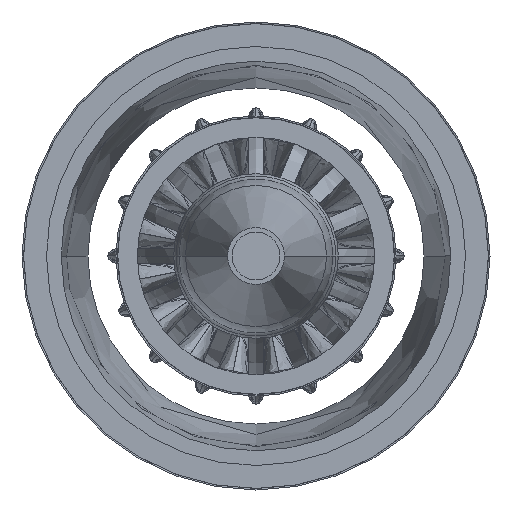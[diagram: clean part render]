
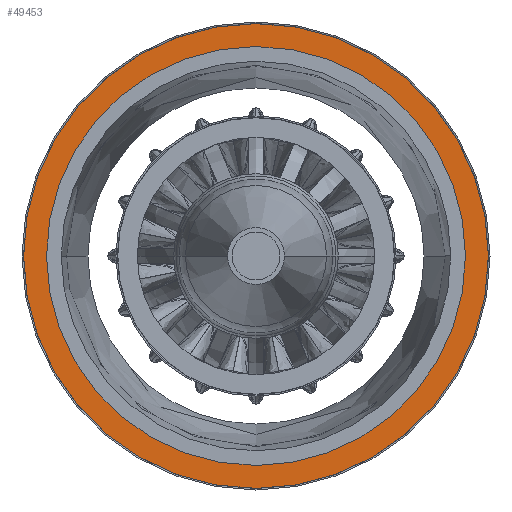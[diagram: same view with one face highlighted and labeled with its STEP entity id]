
A CAD part, left-side view. The second image highlights one B-rep face of the part: STEP entity #49453.
In plain terms, the highlighted planar face has unit normal (-1, 0, 0).
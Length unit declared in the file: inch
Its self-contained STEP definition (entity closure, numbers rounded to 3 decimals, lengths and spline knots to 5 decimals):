
#3422 = CARTESIAN_POINT ( 'NONE',  ( -32.04609, -0.00369, -5.53289 ) ) ;
#3760 = CIRCLE ( 'NONE', #67670, 6.13918 ) ;
#8200 = EDGE_LOOP ( 'NONE', ( #59161, #83132 ) ) ;
#10247 = DIRECTION ( 'NONE',  ( 1., 0., 0. ) ) ;
#10747 = DIRECTION ( 'NONE',  ( 0., -0.001, -1. ) ) ;
#11211 = EDGE_CURVE ( 'NONE', #22114, #51625, #86319, .T. ) ;
#12161 = AXIS2_PLACEMENT_3D ( 'NONE', #49746, #73228, #27210 ) ;
#12239 = DIRECTION ( 'NONE',  ( 0., -0.001, -1. ) ) ;
#13367 = AXIS2_PLACEMENT_3D ( 'NONE', #31087, #61624, #24563 ) ;
#16244 = CARTESIAN_POINT ( 'NONE',  ( -32.04609, 0.00369, 5.53289 ) ) ;
#22114 = VERTEX_POINT ( 'NONE', #3422 ) ;
#24563 = DIRECTION ( 'NONE',  ( 0., -0.001, -1. ) ) ;
#26411 = AXIS2_PLACEMENT_3D ( 'NONE', #61578, #70068, #92110 ) ;
#27210 = DIRECTION ( 'NONE',  ( 0., -0.001, -1. ) ) ;
#27612 = VERTEX_POINT ( 'NONE', #35341 ) ;
#30681 = VERTEX_POINT ( 'NONE', #50813 ) ;
#31087 = CARTESIAN_POINT ( 'NONE',  ( -32.04609, 0., 0. ) ) ;
#31752 = CARTESIAN_POINT ( 'NONE',  ( -32.04609, 0., 0. ) ) ;
#35341 = CARTESIAN_POINT ( 'NONE',  ( -32.04609, -0.0041, -6.13918 ) ) ;
#35657 = ORIENTED_EDGE ( 'NONE', *, *, #40976, .T. ) ;
#35735 = DIRECTION ( 'NONE',  ( 1., 0., 0. ) ) ;
#40976 = EDGE_CURVE ( 'NONE', #51625, #22114, #45717, .T. ) ;
#45717 = CIRCLE ( 'NONE', #12161, 5.5329 ) ;
#47961 = AXIS2_PLACEMENT_3D ( 'NONE', #65775, #35735, #12239 ) ;
#49453 = ADVANCED_FACE ( 'NONE', ( #60109, #74606 ), #66137, .T. ) ;
#49746 = CARTESIAN_POINT ( 'NONE',  ( -32.04609, 0., 0. ) ) ;
#50813 = CARTESIAN_POINT ( 'NONE',  ( -32.04609, 0.0041, 6.13918 ) ) ;
#51625 = VERTEX_POINT ( 'NONE', #16244 ) ;
#56514 = CIRCLE ( 'NONE', #13367, 6.13918 ) ;
#58139 = EDGE_LOOP ( 'NONE', ( #61474, #35657 ) ) ;
#58973 = EDGE_CURVE ( 'NONE', #27612, #30681, #3760, .T. ) ;
#59161 = ORIENTED_EDGE ( 'NONE', *, *, #58973, .F. ) ;
#60109 = FACE_BOUND ( 'NONE', #58139, .T. ) ;
#61474 = ORIENTED_EDGE ( 'NONE', *, *, #11211, .T. ) ;
#61578 = CARTESIAN_POINT ( 'NONE',  ( -32.04609, 5.53289, -0.00369 ) ) ;
#61624 = DIRECTION ( 'NONE',  ( 1., 0., 0. ) ) ;
#65775 = CARTESIAN_POINT ( 'NONE',  ( -32.04609, 0., 0. ) ) ;
#66137 = PLANE ( 'NONE',  #26411 ) ;
#67670 = AXIS2_PLACEMENT_3D ( 'NONE', #31752, #10247, #10747 ) ;
#70068 = DIRECTION ( 'NONE',  ( -1., 0., 0. ) ) ;
#73228 = DIRECTION ( 'NONE',  ( 1., 0., 0. ) ) ;
#74606 = FACE_OUTER_BOUND ( 'NONE', #8200, .T. ) ;
#79590 = EDGE_CURVE ( 'NONE', #30681, #27612, #56514, .T. ) ;
#83132 = ORIENTED_EDGE ( 'NONE', *, *, #79590, .F. ) ;
#86319 = CIRCLE ( 'NONE', #47961, 5.5329 ) ;
#92110 = DIRECTION ( 'NONE',  ( 0., 0.001, 1. ) ) ;
